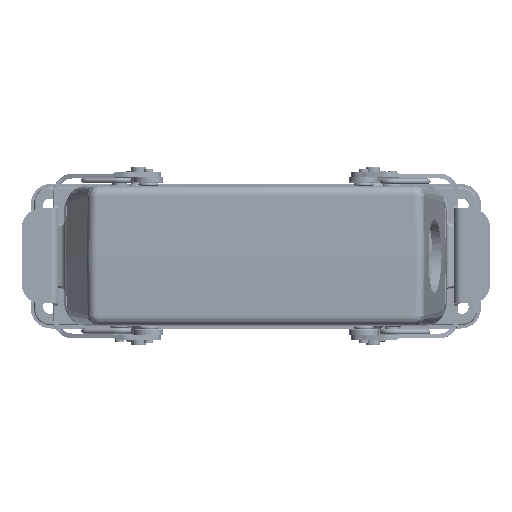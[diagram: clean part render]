
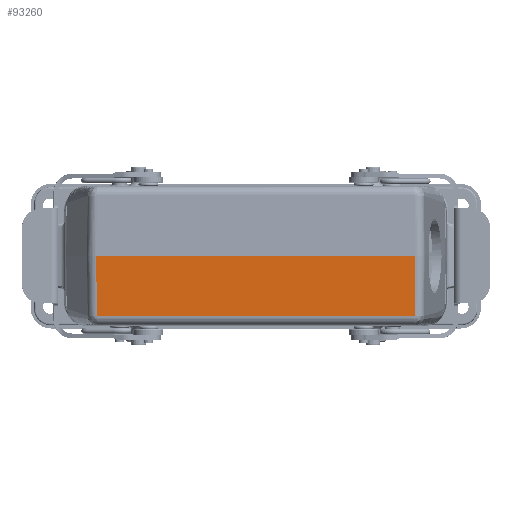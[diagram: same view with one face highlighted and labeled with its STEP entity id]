
A CAD part, top view. The second image highlights one B-rep face of the part: STEP entity #93260.
In plain terms, the highlighted planar face has unit normal (0, -0.018, 1).
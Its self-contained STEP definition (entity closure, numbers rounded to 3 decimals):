
#3581 = CARTESIAN_POINT ( 'NONE',  ( -50.021, -19.052, 59.667 ) ) ;
#7033 = CARTESIAN_POINT ( 'NONE',  ( -50.43, 0., 60. ) ) ;
#15489 = ORIENTED_EDGE ( 'NONE', *, *, #29839, .T. ) ;
#16683 = LINE ( 'NONE', #73593, #113992 ) ;
#18209 = VECTOR ( 'NONE', #28117, 1000. ) ;
#22244 = EDGE_CURVE ( 'NONE', #125712, #141549, #36123, .T. ) ;
#22263 = CARTESIAN_POINT ( 'NONE',  ( 50.085, -19.039, 59.668 ) ) ;
#24462 = CARTESIAN_POINT ( 'NONE',  ( -52.947, -19.052, 59.667 ) ) ;
#28117 = DIRECTION ( 'NONE',  ( 1., 0., 0. ) ) ;
#29839 = EDGE_CURVE ( 'NONE', #85719, #176312, #179835, .T. ) ;
#30691 = CARTESIAN_POINT ( 'NONE',  ( -50.088, -19.04, 59.668 ) ) ;
#33219 = CARTESIAN_POINT ( 'NONE',  ( -50.338, -6.308, 59.89 ) ) ;
#36123 = LINE ( 'NONE', #176825, #62534 ) ;
#37732 = FACE_OUTER_BOUND ( 'NONE', #73210, .T. ) ;
#47760 = B_SPLINE_CURVE_WITH_KNOTS ( 'NONE', 3,
 ( #116226, #161782, #33219, #7033 ),
 .UNSPECIFIED., .F., .F.,
 ( 4, 4 ),
 ( 0., 1. ),
 .UNSPECIFIED. ) ;
#49311 = CARTESIAN_POINT ( 'NONE',  ( 50.152, -18.955, 59.669 ) ) ;
#53712 = ORIENTED_EDGE ( 'NONE', *, *, #22244, .F. ) ;
#59072 = ORIENTED_EDGE ( 'NONE', *, *, #59717, .F. ) ;
#59717 = EDGE_CURVE ( 'NONE', #85719, #64466, #47760, .T. ) ;
#62534 = VECTOR ( 'NONE', #92958, 1000. ) ;
#64466 = VERTEX_POINT ( 'NONE', #84227 ) ;
#72995 = CARTESIAN_POINT ( 'NONE',  ( -50.153, -18.923, 59.67 ) ) ;
#73210 = EDGE_LOOP ( 'NONE', ( #76036, #53712, #119937, #59072, #15489, #119784 ) ) ;
#73593 = CARTESIAN_POINT ( 'NONE',  ( -52.947, 0., 60. ) ) ;
#76036 = ORIENTED_EDGE ( 'NONE', *, *, #114639, .T. ) ;
#82405 = DIRECTION ( 'NONE',  ( -1., 0., 0. ) ) ;
#84227 = CARTESIAN_POINT ( 'NONE',  ( -50.43, 0., 60. ) ) ;
#85719 = VERTEX_POINT ( 'NONE', #72995 ) ;
#85836 = CARTESIAN_POINT ( 'NONE',  ( 50.015, -19.052, 59.667 ) ) ;
#89857 = B_SPLINE_CURVE_WITH_KNOTS ( 'NONE', 3,
 ( #176973, #152693, #22263, #94021, #49311, #163004 ),
 .UNSPECIFIED., .F., .F.,
 ( 4, 2, 4 ),
 ( 0., 0.5, 1. ),
 .UNSPECIFIED. ) ;
#90564 = EDGE_CURVE ( 'NONE', #176312, #168450, #182779, .T. ) ;
#92958 = DIRECTION ( 'NONE',  ( -0.015, -1., -0.017 ) ) ;
#93260 = ADVANCED_FACE ( 'NONE', ( #37732 ), #94560, .T. ) ;
#94021 = CARTESIAN_POINT ( 'NONE',  ( 50.138, -18.987, 59.669 ) ) ;
#94560 = PLANE ( 'NONE',  #97024 ) ;
#97024 = AXIS2_PLACEMENT_3D ( 'NONE', #152330, #181145, #82405 ) ;
#113992 = VECTOR ( 'NONE', #155619, 1000. ) ;
#114639 = EDGE_CURVE ( 'NONE', #168450, #141549, #89857, .T. ) ;
#115532 = CARTESIAN_POINT ( 'NONE',  ( -50.153, -18.923, 59.67 ) ) ;
#116226 = CARTESIAN_POINT ( 'NONE',  ( -50.153, -18.923, 59.67 ) ) ;
#119784 = ORIENTED_EDGE ( 'NONE', *, *, #90564, .T. ) ;
#119937 = ORIENTED_EDGE ( 'NONE', *, *, #128275, .T. ) ;
#122420 = CARTESIAN_POINT ( 'NONE',  ( 50.153, -18.917, 59.67 ) ) ;
#125712 = VERTEX_POINT ( 'NONE', #144396 ) ;
#128275 = EDGE_CURVE ( 'NONE', #125712, #64466, #16683, .T. ) ;
#141549 = VERTEX_POINT ( 'NONE', #122420 ) ;
#143460 = CARTESIAN_POINT ( 'NONE',  ( -50.152, -18.959, 59.669 ) ) ;
#144396 = CARTESIAN_POINT ( 'NONE',  ( 50.43, 0., 60. ) ) ;
#147120 = CARTESIAN_POINT ( 'NONE',  ( -50.058, -19.052, 59.667 ) ) ;
#152330 = CARTESIAN_POINT ( 'NONE',  ( -52.947, 0., 60. ) ) ;
#152693 = CARTESIAN_POINT ( 'NONE',  ( 50.052, -19.052, 59.667 ) ) ;
#155619 = DIRECTION ( 'NONE',  ( -1., 0., 0. ) ) ;
#161782 = CARTESIAN_POINT ( 'NONE',  ( -50.245, -12.616, 59.78 ) ) ;
#163004 = CARTESIAN_POINT ( 'NONE',  ( 50.153, -18.917, 59.67 ) ) ;
#167953 = CARTESIAN_POINT ( 'NONE',  ( -50.021, -19.052, 59.667 ) ) ;
#168450 = VERTEX_POINT ( 'NONE', #85836 ) ;
#171432 = CARTESIAN_POINT ( 'NONE',  ( -50.138, -18.99, 59.669 ) ) ;
#176312 = VERTEX_POINT ( 'NONE', #167953 ) ;
#176825 = CARTESIAN_POINT ( 'NONE',  ( 50.43, 0., 60. ) ) ;
#176973 = CARTESIAN_POINT ( 'NONE',  ( 50.015, -19.052, 59.667 ) ) ;
#179835 = B_SPLINE_CURVE_WITH_KNOTS ( 'NONE', 3,
 ( #115532, #143460, #171432, #30691, #147120, #3581 ),
 .UNSPECIFIED., .F., .F.,
 ( 4, 2, 4 ),
 ( 0., 0.5, 1. ),
 .UNSPECIFIED. ) ;
#181145 = DIRECTION ( 'NONE',  ( 0., -0.017, 1. ) ) ;
#182779 = LINE ( 'NONE', #24462, #18209 ) ;
